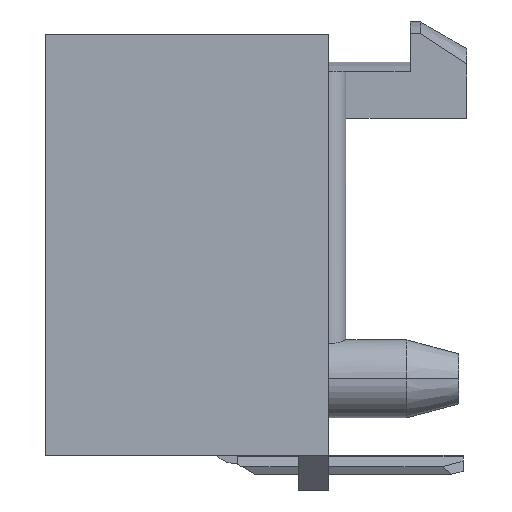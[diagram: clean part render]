
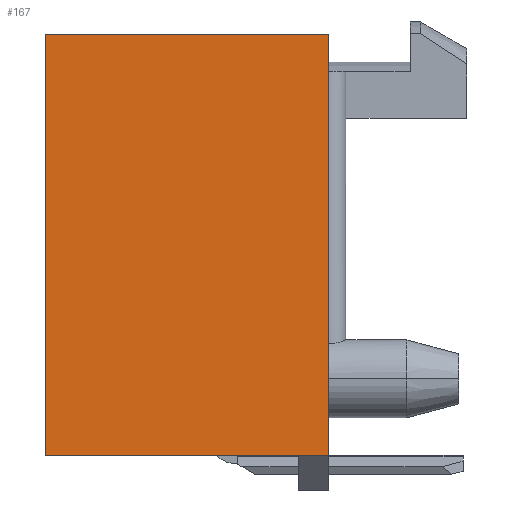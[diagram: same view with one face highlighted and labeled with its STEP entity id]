
A CAD part, left-side view. The second image highlights one B-rep face of the part: STEP entity #167.
In plain terms, the highlighted planar face has unit normal (-1, 0, 0).
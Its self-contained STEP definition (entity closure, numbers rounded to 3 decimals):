
#167=ADVANCED_FACE('',(#646),#647,.T.);
#646=FACE_OUTER_BOUND('',#1415,.T.);
#647=PLANE('',#1416);
#1415=EDGE_LOOP('',(#2705,#2706,#2707,#2708));
#1416=AXIS2_PLACEMENT_3D('',#2709,#2710,#2711);
#2705=ORIENTED_EDGE('',*,*,#5353,.T.);
#2706=ORIENTED_EDGE('',*,*,#5140,.F.);
#2707=ORIENTED_EDGE('',*,*,#5413,.F.);
#2708=ORIENTED_EDGE('',*,*,#5258,.T.);
#2709=CARTESIAN_POINT('',(-11.633,4.14,0.0));
#2710=DIRECTION('',(-1.0,0.0,0.0));
#2711=DIRECTION('',(0.0,0.0,1.0));
#5140=EDGE_CURVE('',#6245,#6247,#6248,.T.);
#5258=EDGE_CURVE('',#6462,#6460,#6463,.T.);
#5353=EDGE_CURVE('',#6460,#6247,#6629,.T.);
#5413=EDGE_CURVE('',#6462,#6245,#6741,.T.);
#6245=VERTEX_POINT('',#7847);
#6247=VERTEX_POINT('',#7850);
#6248=LINE('',#7851,#7852);
#6460=VERTEX_POINT('',#8172);
#6462=VERTEX_POINT('',#8175);
#6463=LINE('',#8176,#8177);
#6629=LINE('',#8435,#8436);
#6741=LINE('',#8593,#8594);
#7847=CARTESIAN_POINT('',(-11.633,4.14,12.319));
#7850=CARTESIAN_POINT('',(-11.633,-4.14,12.319));
#7851=CARTESIAN_POINT('',(-11.633,4.14,12.319));
#7852=VECTOR('',#10146,8.28);
#8172=CARTESIAN_POINT('',(-11.633,-4.14,0.0));
#8175=CARTESIAN_POINT('',(-11.633,4.14,0.0));
#8176=CARTESIAN_POINT('',(-11.633,4.14,0.0));
#8177=VECTOR('',#10280,8.28);
#8435=CARTESIAN_POINT('',(-11.633,-4.14,0.0));
#8436=VECTOR('',#10391,12.319);
#8593=CARTESIAN_POINT('',(-11.633,4.14,0.0));
#8594=VECTOR('',#10479,12.319);
#10146=DIRECTION('',(0.0,-1.0,0.0));
#10280=DIRECTION('',(0.0,-1.0,0.0));
#10391=DIRECTION('',(0.0,0.0,1.0));
#10479=DIRECTION('',(0.0,0.0,1.0));
